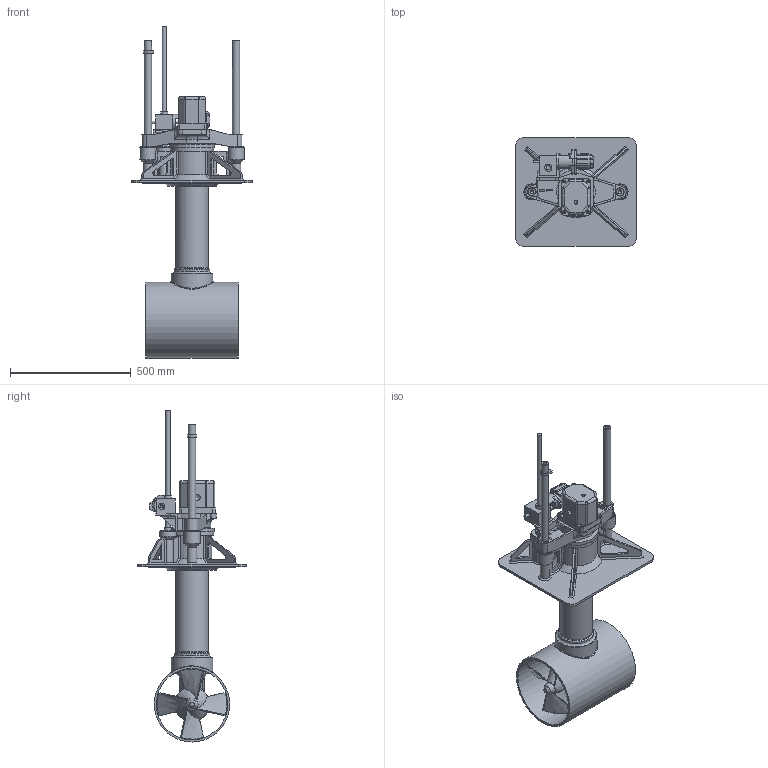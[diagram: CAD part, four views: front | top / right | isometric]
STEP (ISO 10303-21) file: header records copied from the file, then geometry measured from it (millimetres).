
FILE_DESCRIPTION(/* description */ (''),/* implementation_level */ '2;1');
FILE_NAME(/* name */ 'Q:\THRUSTERS\THRUSTER SALES & SUPPORT DOCS\THRUSTER Sales\H-V\H-0300-V\H-0300-V-DEPLOYED.stp',/* time_stamp */ '2020-03-03T12:12:34+00:00',/* author */ ('charlotte.richardson'),/* organization */ (''),/* preprocessor_version */ 'ST-DEVELOPER v17',/* originating_system */ 'Autodesk Inventor 2019',/* authorisation */ '');
FILE_SCHEMA (('AUTOMOTIVE_DESIGN { 1 0 10303 214 3 1 1 }'));
Length unit declared in the file: millimetre
Products named in the file (1): H-0300-V_Shrinkwrap_1
Bounding box: 500 x 450 x 1375.78 mm (x, y, z)
Volume: 16661267.9 mm3; surface area: 3046938.2 mm2
Topology: 5 solids, 5 shells, 1481 faces, 4120 edges, 2652 vertices
Faces by surface type: plane 791, cylinder 501, cone 108, bspline 59, torus 12, sphere 10
Full cylindrical faces by diameter (mm): 4 x4, 7 x2, 8 x2, 10 x2, 10.3 x4, 10.8 x2, 11.445 x1, 12.7 x1, 14 x3, 14.95 x3, 15 x2, 18 x1, 18.5 x1, 24.117 x2, 25 x4, 26 x2, 30 x9, 33 x2, 34 x4, 36 x2, 40 x5, 45 x1, 49 x1, 50 x2, 50.8 x1, 55 x8, 57 x1, 60 x2, 65 x2, 66.5 x2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
Entity records: 52714 total; most frequent: CARTESIAN_POINT 12636, ORIENTED_EDGE 8184, DIRECTION 7994, EDGE_CURVE 4092, AXIS2_PLACEMENT_3D 2804, VERTEX_POINT 2652, LINE 2386, VECTOR 2386
